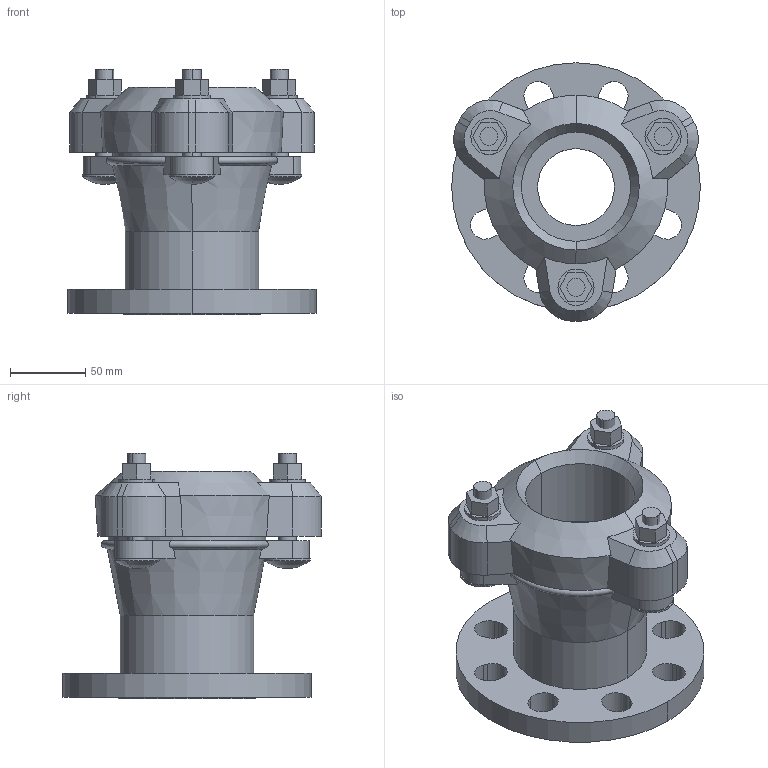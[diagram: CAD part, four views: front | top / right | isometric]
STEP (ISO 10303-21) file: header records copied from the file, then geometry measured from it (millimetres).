
FILE_DESCRIPTION((''),'2;1');
FILE_NAME('BIM_13199_2_ASM','2020-09-09T',('MReader'),(''),'CREO PARAMETRIC BY PTC INC, 2016130','CREO PARAMETRIC BY PTC INC, 2016130','');
FILE_SCHEMA(('CONFIG_CONTROL_DESIGN'));
Length unit declared in the file: millimetre
Products named in the file (4): BIM_13027_10_SLEEVE; BIM_13027_10_; BIM_13230_3; BIM_13199_2_ASM
Assembly tree (3 placements, depth 2):
  BIM_13199_2_ASM
    BIM_13027_10_SLEEVE
    BIM_13027_10_
    BIM_13230_3
Bounding box: 165 x 171.72 x 163 mm (x, y, z)
Volume: 917677.8 mm3; surface area: 178580.9 mm2
Topology: 3 solids, 3 shells, 177 faces, 457 edges, 288 vertices
Faces by surface type: plane 84, cylinder 59, cone 26, sphere 6, torus 2
Entity records: 5651 total; most frequent: CARTESIAN_POINT 1145, DIRECTION 953, ORIENTED_EDGE 902, EDGE_CURVE 451, AXIS2_PLACEMENT_3D 356, VERTEX_POINT 288, VECTOR 241, LINE 241
